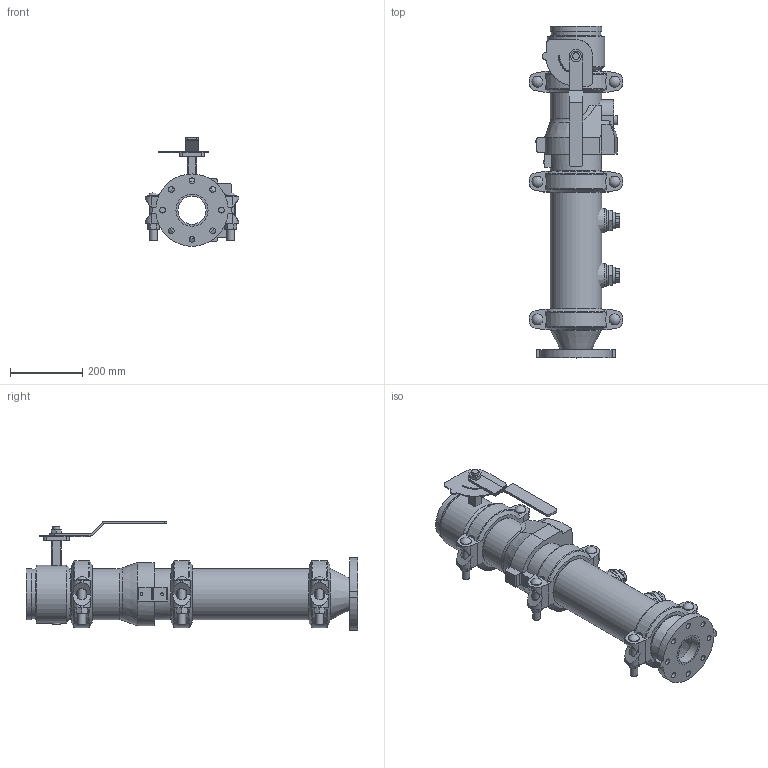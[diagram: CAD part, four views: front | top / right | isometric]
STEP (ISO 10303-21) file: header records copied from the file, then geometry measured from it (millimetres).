
FILE_DESCRIPTION(/* description */ ('VIC DVI PUMP DROP VERT S/390 (OGSxFLG)','CAx-IF Rec.Pracs.---Representation and Presentation of Product Manufacturing Information (PMI)---4.0---2014-10-13'),/* implementation_level */ '2;1');
FILE_NAME(/* name */ 'C:\Users\Vjadhav\AppData\Roaming\Autodesk\ApplicationPlugins\Back Up\Victaulic_IPS_Vertical DVI_PN10_Series 390 (OGSxFLG)\Victaulic_IPS_Vertical DVI_PN10_Series 390 (OGSxFLG)_05.0x03.0 (125x80).stp',/* time_stamp */ '2020-11-09T17:50:41+05:00',/* author */ ('Vjadhav'),/* organization */ ('Victaulic'),/* preprocessor_version */ 'ST-DEVELOPER v17.2',/* originating_system */ 'Autodesk Inventor 2019',/* authorisation */ '');
FILE_SCHEMA (('AP242_MANAGED_MODEL_BASED_3D_ENGINEERING_MIM_LF { 1 0 10303 442 1 1 4 }'));
Length unit declared in the file: inch
Products named in the file (8): 390-05.0x03.0; 741-03.0; 050-05.0x03.0; Pipe-05.0; 177N-05.0; 761-05.0; 716-05.0; 923-04.0x0.75
Assembly tree (10 placements, depth 2):
  390-05.0x03.0
    741-03.0
    050-05.0x03.0
    177N-05.0  x3
    Pipe-05.0
    761-05.0
    716-05.0
    923-04.0x0.75  x2
Bounding box: 259.33 x 917.96 x 300.48 mm (x, y, z)
Volume: 7717095.4 mm3; surface area: 1425896.3 mm2
Topology: 10 solids, 11 shells, 611 faces, 1635 edges, 1088 vertices
Faces by surface type: plane 358, cylinder 208, cone 20, torus 17, sphere 6, bspline 2
Full cylindrical faces by diameter (mm): 4.826 x10, 7.62 x2, 8.636 x4, 16.002 x8, 19.05 x2, 21.209 x6, 22.86 x1, 25.4 x1, 26.67 x2, 30.48 x6, 45.974 x4, 55.118 x1, 55.626 x2, 77.927 x1, 84.938 x1, 88.9 x3, 128.194 x3, 128.6 x3, 130.988 x1, 137.033 x7, 141.3 x19, 160.02 x1
Entity records: 12583 total; most frequent: CARTESIAN_POINT 2376, DIRECTION 2097, ORIENTED_EDGE 1926, EDGE_CURVE 963, AXIS2_PLACEMENT_3D 789, VERTEX_POINT 648, LINE 519, VECTOR 519
